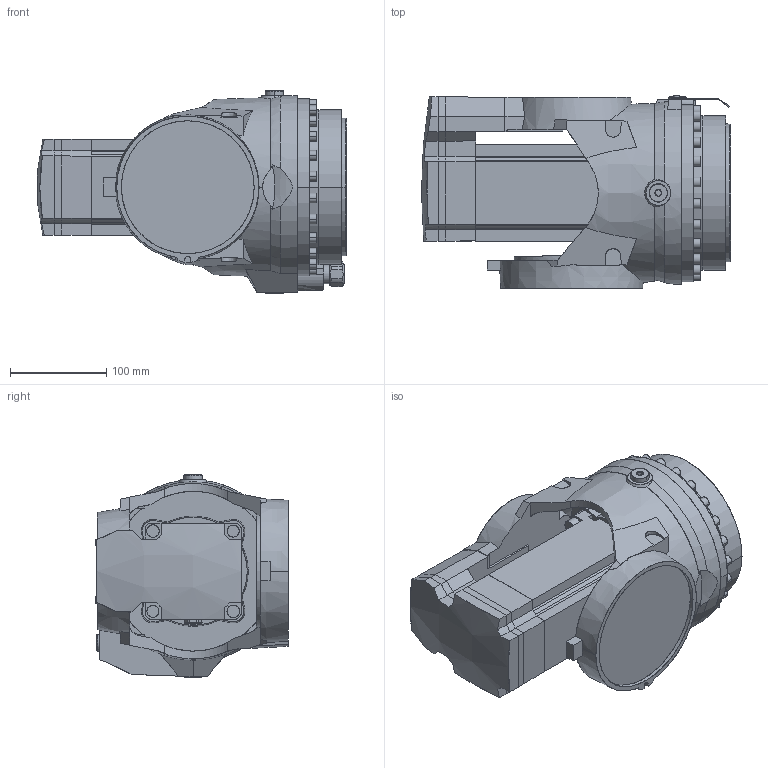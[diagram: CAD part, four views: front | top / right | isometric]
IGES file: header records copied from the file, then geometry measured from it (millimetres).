
Start section: SolidWorks IGES file using analytic representation for surfaces
Global section: file name: C:\Data\SAP_DOC\IRB6740_lightweight\6750S\IRB 6750S ASM\IRB6750S-LID-MH_220kg-360_OC_01_SW_J\IRB6750S-LID-MH_220kg-360_OC_01_IGES_J\IRB6750S_All-360_OC_01_LINK05_CAD.igs; native system: SolidWorks 2024; preprocessor: SolidWorks 2024; author: SEJAOLS6; date: 260513.073247; units: millimetre
Bounding box: 321.19 x 200.3 x 210 mm (x, y, z)
Surface area: 374965.1 mm2 (no closed solid volume)
Topology: 0 solids, 0 shells, 642 faces, 9935 edges, 9935 vertices
Faces by surface type: bspline 403, revolution 239
